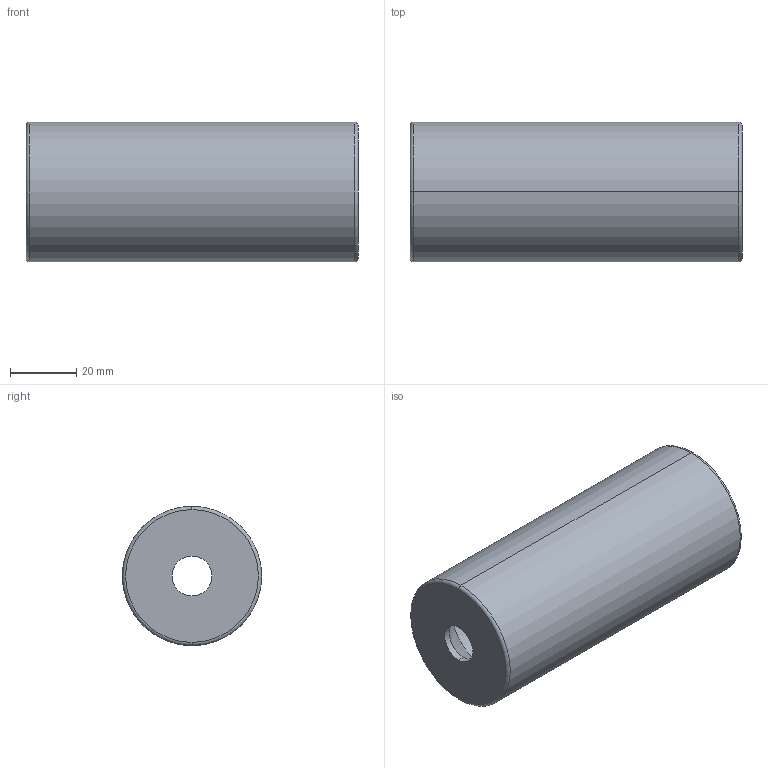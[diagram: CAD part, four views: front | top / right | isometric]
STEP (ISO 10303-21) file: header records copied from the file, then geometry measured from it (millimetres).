
FILE_DESCRIPTION (( 'STEP AP214' ), '1' );
FILE_NAME ('BR20 42x100.STEP', '2020-01-21T11:34:34', ( 'August' ), ( '' ), 'SwSTEP 2.0', 'SolidWorks 2018', '' );
FILE_SCHEMA (( 'AUTOMOTIVE_DESIGN' ));
Length unit declared in the file: millimetre
Products named in the file (1): BR20 42x100
Bounding box: 100 x 42 x 42 mm (x, y, z)
Volume: 54354.3 mm3; surface area: 25322.7 mm2
Topology: 1 solids, 1 shells, 14 faces, 28 edges, 16 vertices
Faces by surface type: cylinder 6, torus 4, cone 2, plane 2
Entity records: 406 total; most frequent: DIRECTION 78, CARTESIAN_POINT 59, ORIENTED_EDGE 56, AXIS2_PLACEMENT_3D 35, EDGE_CURVE 28, CIRCLE 20, VERTEX_POINT 16, EDGE_LOOP 16
